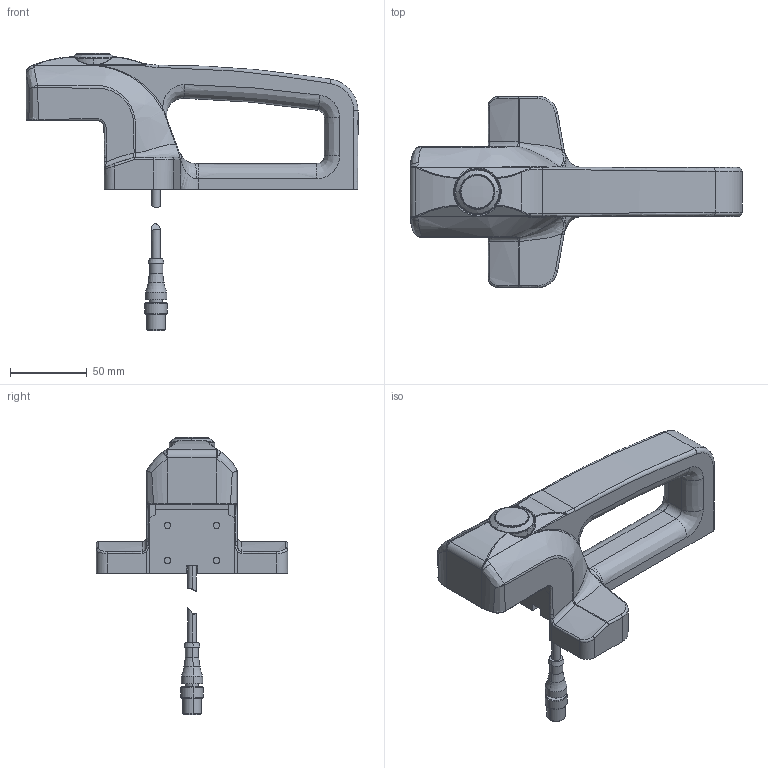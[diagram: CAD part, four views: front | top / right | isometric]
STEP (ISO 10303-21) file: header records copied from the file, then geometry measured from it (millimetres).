
FILE_DESCRIPTION (( 'STEP AP203' ), '1' );
FILE_NAME ('ZF_STEP_AN Sxx001A_PMx.STEP', '2024-11-06T11:27:15', ( '' ), ( '' ), 'SwSTEP 2.0', 'SolidWorks 2023', '' );
FILE_SCHEMA (( 'CONFIG_CONTROL_DESIGN' ));
Length unit declared in the file: millimetre
Products named in the file (5): Connettore con cavo_AN_PMxx; ZF_STEP_AN Sxx00x_plastiche; ZF_STEP_AN Sxx001A_PMx; ZF_STEP_AN Sxx001A; ZF_STEP_VN_NG-AC26001_A17_bianco
Assembly tree (4 placements, depth 3):
  ZF_STEP_AN Sxx001A_PMx
    ZF_STEP_AN Sxx001A
      ZF_STEP_AN Sxx00x_plastiche
      ZF_STEP_VN_NG-AC26001_A17_bianco
    Connettore con cavo_AN_PMxx
Bounding box: 217 x 125 x 181.13 mm (x, y, z)
Volume: 410981.3 mm3; surface area: 79850.6 mm2
Topology: 5 solids, 5 shells, 390 faces, 964 edges, 608 vertices
Faces by surface type: bspline 149, plane 112, cylinder 107, cone 16, torus 6
Entity records: 21945 total; most frequent: CARTESIAN_POINT 13525, ORIENTED_EDGE 1916, DIRECTION 1266, EDGE_CURVE 958, VERTEX_POINT 608, AXIS2_PLACEMENT_3D 486, EDGE_LOOP 422, FACE_OUTER_BOUND 390
